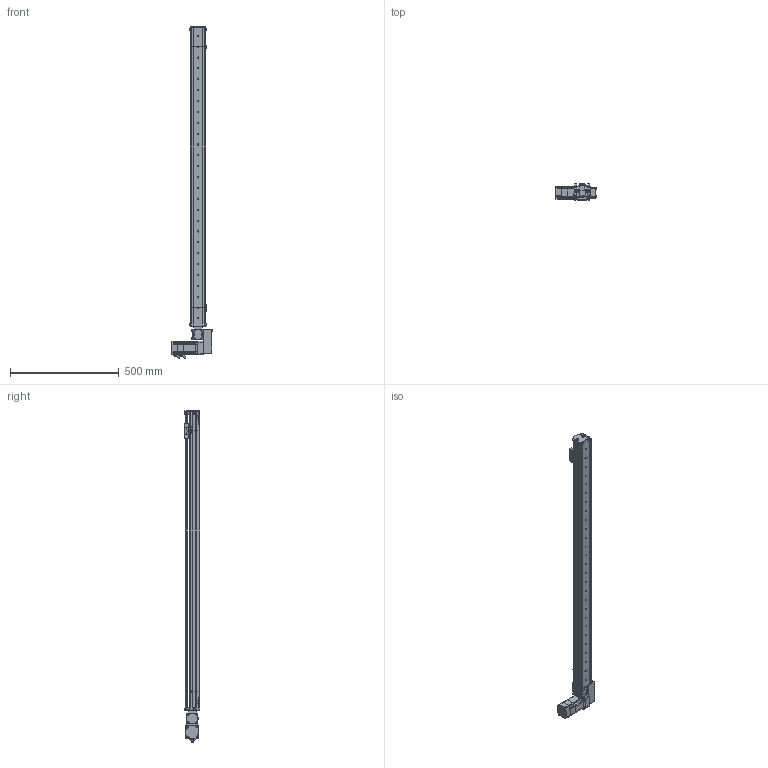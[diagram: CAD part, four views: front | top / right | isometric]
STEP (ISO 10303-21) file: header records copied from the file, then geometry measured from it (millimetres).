
FILE_DESCRIPTION (( 'STEP AP214' ), '1' );
FILE_NAME ('S07 TBN LH S1200.STEP', '2010-06-29T11:57:19', ( 'Conseil Régional Haute-Normandie' ), ( 'Conseil Régional Haute-Normandie' ), 'SwSTEP 2.0', 'SolidWorks 2010', '' );
FILE_SCHEMA (( 'AUTOMOTIVE_DESIGN' ));
Length unit declared in the file: millimetre
Products named in the file (41): renvoi LH_Default; couroie tail_Default; vis M5 L12_Default; plaque de bout_Default; P4_Default; P3 90A_Default; GMB 60 90 310_Default; Conecteur2 60BLDC_Default; Conecteur 60BLDC_Default; Axe 60BLDC_Default; P2 90A_Default; Vis M5 L16-2_Default; Poulie_Default; corp tail TB_Default; S07 TB tail (78)_Default; T皻e de poulie_Default; couvercle tail TB; Cvis M5 L30_Default; VisM3_Default; P1_Default; guide; CHariot_Default; vis M5 L16_Default; Chariot; Plaque racord_Default; couvercle S07 course 1200 ; Corp S07 course 1200_Default; vis M5 L5_Default; cache t皻e_Default; Poulie head_Default; cache t皻e axe_Default; couvercle moteur S07 TB; S07 LH(146)_Default; Couroie  course 1200_Default; Couroie t皻e_Default; Pièce5^S07 LH(146); plaque de bout LH_Default; corp moteur LH-RH(146)_Default; Course C L1200_Default; S07 TBN LH S1200
Assembly tree (80 placements, depth 4):
  Pièce5^S07 LH(146)
  S07 TBN LH S1200
    Course C L1200_Default
      Couroie  course 1200_Default
      Corp S07 course 1200_Default
      couvercle S07 course 1200 
    S07 TB tail (78)_Default
      couroie tail_Default
      Poulie_Default
        Poulie_Default
        T皻e de poulie_Default
      vis M5 L12_Default  x10
      couvercle tail TB
      corp tail TB_Default
      plaque de bout_Default
    CHariot_Default
      vis M5 L16_Default  x2
      guide
      Chariot
    S07 LH(146)_Default
      cache t皻e axe_Default
      couvercle moteur S07 TB
      Couroie t皻e_Default
      vis M5 L12_Default  x6
      Vis M5 L16-2_Default  x8
      Poulie head_Default
      Cvis M5 L30_Default  x2
      cache t皻e_Default  x2
      renvoi LH_Default
      Plaque racord_Default
      vis M5 L5_Default  x6
      GMB 60 90 310_Default
        VisM3_Default  x12
        Conecteur2 60BLDC_Default
        P4_Default
        P3 90A_Default
        P1_Default
        Conecteur 60BLDC_Default
        Axe 60BLDC_Default
        P2 90A_Default
      corp moteur LH-RH(146)_Default
      plaque de bout LH_Default
Bounding box: 190.2 x 72.2 x 1527 mm (x, y, z)
Volume: 2959680.1 mm3; surface area: 1276507.5 mm2
Topology: 102 solids, 102 shells, 3950 faces, 9828 edges, 6349 vertices
Faces by surface type: plane 2240, cylinder 780, bspline 677, cone 125, torus 124, sphere 4
Entity records: 167969 total; most frequent: CARTESIAN_POINT 75331, ORIENTED_EDGE 15568, DIRECTION 12441, EDGE_CURVE 7784, VERTEX_POINT 5137, VECTOR 5067, LINE 5067, AXIS2_PLACEMENT_3D 3687
